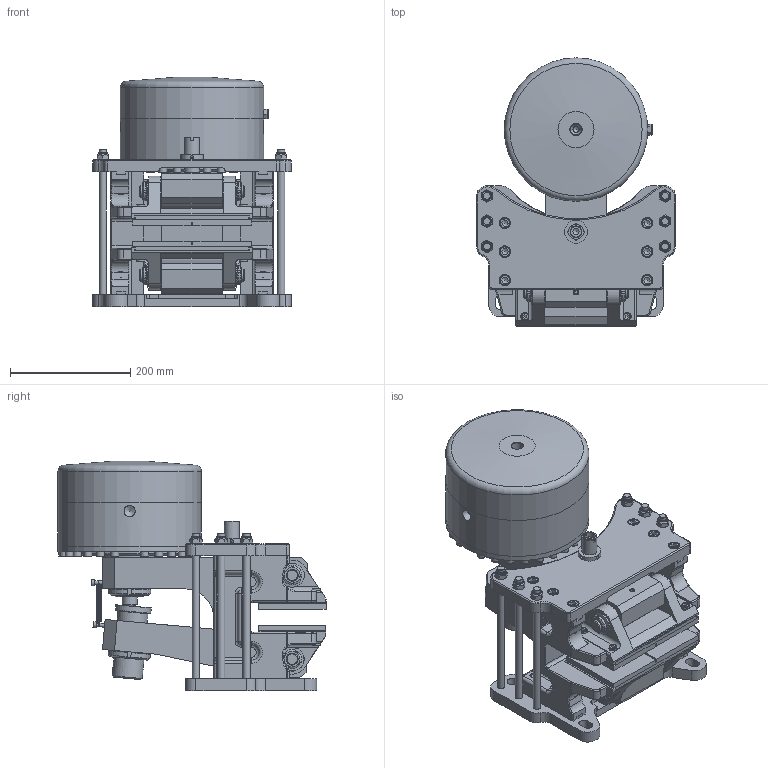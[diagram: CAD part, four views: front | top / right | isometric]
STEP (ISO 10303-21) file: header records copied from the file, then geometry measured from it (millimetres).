
FILE_DESCRIPTION(/* description */ ('','CAx-IF Rec.Pracs.---Representation and Presentation of Product Manufacturing Information (PMI)---4.0---2014-10-13'),/* implementation_level */ '2;1');
FILE_NAME(/* name */ 'X:\INVENTOR\DISEGNI\19_Pinze\STEP x Sito\PNEUM-POSITIVE\19_16_700_04 PPTP700_25,4.stp',/* time_stamp */ '2018-10-29T08:58:59+01:00',/* author */ ('stefano'),/* organization */ (''),/* preprocessor_version */ 'ST-DEVELOPER v17',/* originating_system */ 'Autodesk Inventor 2018',/* authorisation */ '');
FILE_SCHEMA (('AP242_MANAGED_MODEL_BASED_3D_ENGINEERING_MIM_LF { 1 0 10303 442 1 1 4 }'));
Length unit declared in the file: millimetre
Products named in the file (1): 19_16_700_04 PPTP700_25,4_Substitute_3
Bounding box: 330.02 x 445 x 380.6 mm (x, y, z)
Volume: 14608121.4 mm3; surface area: 1302228.5 mm2
Topology: 1 solids, 1 shells, 1829 faces, 5015 edges, 3326 vertices
Faces by surface type: plane 964, cylinder 450, cone 200, torus 179, bspline 24, sphere 12
Full cylindrical faces by diameter (mm): 1.2 x2, 3 x1, 5 x2, 5.188 x7, 5.25 x4, 6 x2, 6.3 x6, 8 x8, 8.376 x1, 8.5 x8, 8.917 x1, 9.188 x1, 10 x4, 10.106 x19, 11.445 x2, 12 x26, 12.5 x18, 13 x35, 13.5 x8, 14 x1, 15.3 x6, 17 x2, 18 x14, 18.631 x2, 19 x12, 19.5 x1, 20 x13, 22 x6, 25 x12, 28 x1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
Entity records: 67115 total; most frequent: CARTESIAN_POINT 19462, ORIENTED_EDGE 9906, DIRECTION 9667, EDGE_CURVE 4953, AXIS2_PLACEMENT_3D 3691, VERTEX_POINT 3326, LINE 2285, VECTOR 2285
